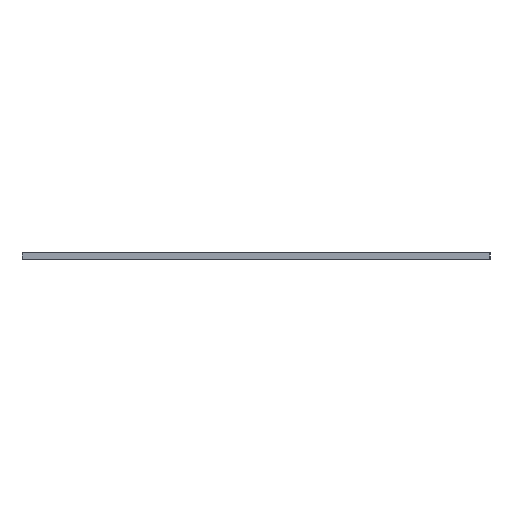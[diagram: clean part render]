
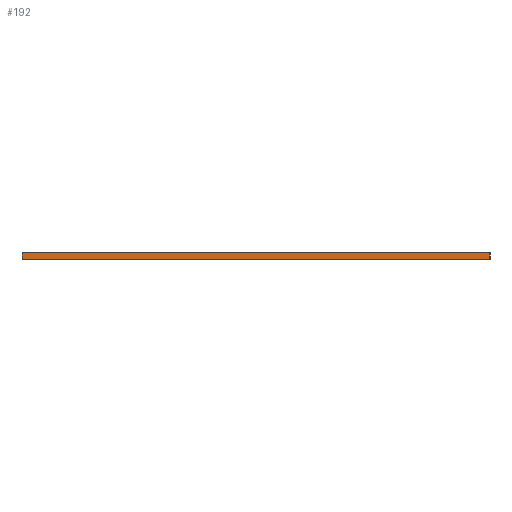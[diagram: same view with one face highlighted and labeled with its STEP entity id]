
A CAD part, left-side view. The second image highlights one B-rep face of the part: STEP entity #192.
In plain terms, the highlighted free-form (B-spline) face has degree [1, 1] with [2, 2] control points.
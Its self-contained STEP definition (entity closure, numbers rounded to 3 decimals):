
#31 = B_SPLINE_SURFACE_WITH_KNOTS('',1,1,(
    (#32,#33)
    ,(#34,#35
    )),.UNSPECIFIED.,.F.,.F.,.F.,(2,2),(2,2),(0.,125.),(-1.51,0.),
  .PIECEWISE_BEZIER_KNOTS.);
#32 = CARTESIAN_POINT('',(175.,-160.,1.6));
#33 = CARTESIAN_POINT('',(175.,-160.,0.));
#34 = CARTESIAN_POINT('',(50.,-160.,1.6));
#35 = CARTESIAN_POINT('',(50.,-160.,0.));
#54 = VERTEX_POINT('',#55);
#55 = CARTESIAN_POINT('',(50.,-160.,1.6));
#67 = B_SPLINE_SURFACE_WITH_KNOTS('',1,1,(
    (#68,#69)
    ,(#70,#71
    )),.UNSPECIFIED.,.F.,.F.,.F.,(2,2),(2,2),(50.,175.),(-160.,-50.),
  .PIECEWISE_BEZIER_KNOTS.);
#68 = CARTESIAN_POINT('',(50.,-160.,1.6));
#69 = CARTESIAN_POINT('',(50.,-50.,1.6));
#70 = CARTESIAN_POINT('',(175.,-160.,1.6));
#71 = CARTESIAN_POINT('',(175.,-50.,1.6));
#78 = EDGE_CURVE('',#79,#54,#81,.T.);
#79 = VERTEX_POINT('',#80);
#80 = CARTESIAN_POINT('',(50.,-160.,0.));
#81 = SURFACE_CURVE('',#82,(#85,#91),.PCURVE_S1.);
#82 = B_SPLINE_CURVE_WITH_KNOTS('',1,(#83,#84),.UNSPECIFIED.,.F.,.F.,(2,
    2),(0.,1.51),.PIECEWISE_BEZIER_KNOTS.);
#83 = CARTESIAN_POINT('',(50.,-160.,0.));
#84 = CARTESIAN_POINT('',(50.,-160.,1.6));
#85 = PCURVE('',#31,#86);
#86 = DEFINITIONAL_REPRESENTATION('',(#87),#90);
#87 = B_SPLINE_CURVE_WITH_KNOTS('',1,(#88,#89),.UNSPECIFIED.,.F.,.F.,(2,
    2),(0.,1.51),.PIECEWISE_BEZIER_KNOTS.);
#88 = CARTESIAN_POINT('',(125.,0.));
#89 = CARTESIAN_POINT('',(125.,-1.51));
#90 = ( GEOMETRIC_REPRESENTATION_CONTEXT(2) 
PARAMETRIC_REPRESENTATION_CONTEXT() REPRESENTATION_CONTEXT('2D SPACE',''
  ) );
#91 = PCURVE('',#92,#97);
#92 = B_SPLINE_SURFACE_WITH_KNOTS('',1,1,(
    (#93,#94)
    ,(#95,#96
    )),.UNSPECIFIED.,.F.,.F.,.F.,(2,2),(2,2),(0.,110.),(-1.51,0.),
  .PIECEWISE_BEZIER_KNOTS.);
#93 = CARTESIAN_POINT('',(50.,-160.,1.6));
#94 = CARTESIAN_POINT('',(50.,-160.,0.));
#95 = CARTESIAN_POINT('',(50.,-50.,1.6));
#96 = CARTESIAN_POINT('',(50.,-50.,0.));
#97 = DEFINITIONAL_REPRESENTATION('',(#98),#101);
#98 = B_SPLINE_CURVE_WITH_KNOTS('',1,(#99,#100),.UNSPECIFIED.,.F.,.F.,(2
    ,2),(0.,1.51),.PIECEWISE_BEZIER_KNOTS.);
#99 = CARTESIAN_POINT('',(0.,0.));
#100 = CARTESIAN_POINT('',(0.,-1.51));
#101 = ( GEOMETRIC_REPRESENTATION_CONTEXT(2) 
PARAMETRIC_REPRESENTATION_CONTEXT() REPRESENTATION_CONTEXT('2D SPACE',''
  ) );
#115 = B_SPLINE_SURFACE_WITH_KNOTS('',1,1,(
    (#116,#117)
    ,(#118,#119
    )),.UNSPECIFIED.,.F.,.F.,.F.,(2,2),(2,2),(50.,175.),(-160.,-50.),
  .PIECEWISE_BEZIER_KNOTS.);
#116 = CARTESIAN_POINT('',(50.,-160.,0.));
#117 = CARTESIAN_POINT('',(50.,-50.,0.));
#118 = CARTESIAN_POINT('',(175.,-160.,0.));
#119 = CARTESIAN_POINT('',(175.,-50.,0.));
#145 = B_SPLINE_SURFACE_WITH_KNOTS('',1,1,(
    (#146,#147)
    ,(#148,#149
    )),.UNSPECIFIED.,.F.,.F.,.F.,(2,2),(2,2),(0.,125.),(-1.51,0.),
  .PIECEWISE_BEZIER_KNOTS.);
#146 = CARTESIAN_POINT('',(50.,-50.,1.6));
#147 = CARTESIAN_POINT('',(50.,-50.,0.));
#148 = CARTESIAN_POINT('',(175.,-50.,1.6));
#149 = CARTESIAN_POINT('',(175.,-50.,0.));
#192 = ADVANCED_FACE('',(#193),#92,.T.);
#193 = FACE_BOUND('',#194,.T.);
#194 = EDGE_LOOP('',(#195,#196,#216,#236));
#195 = ORIENTED_EDGE('',*,*,#78,.T.);
#196 = ORIENTED_EDGE('',*,*,#197,.T.);
#197 = EDGE_CURVE('',#54,#198,#200,.T.);
#198 = VERTEX_POINT('',#199);
#199 = CARTESIAN_POINT('',(50.,-50.,1.6));
#200 = SURFACE_CURVE('',#201,(#204,#210),.PCURVE_S1.);
#201 = B_SPLINE_CURVE_WITH_KNOTS('',1,(#202,#203),.UNSPECIFIED.,.F.,.F.,
  (2,2),(0.,110.),.PIECEWISE_BEZIER_KNOTS.);
#202 = CARTESIAN_POINT('',(50.,-160.,1.6));
#203 = CARTESIAN_POINT('',(50.,-50.,1.6));
#204 = PCURVE('',#92,#205);
#205 = DEFINITIONAL_REPRESENTATION('',(#206),#209);
#206 = B_SPLINE_CURVE_WITH_KNOTS('',1,(#207,#208),.UNSPECIFIED.,.F.,.F.,
  (2,2),(0.,110.),.PIECEWISE_BEZIER_KNOTS.);
#207 = CARTESIAN_POINT('',(0.,-1.51));
#208 = CARTESIAN_POINT('',(110.,-1.51));
#209 = ( GEOMETRIC_REPRESENTATION_CONTEXT(2) 
PARAMETRIC_REPRESENTATION_CONTEXT() REPRESENTATION_CONTEXT('2D SPACE',''
  ) );
#210 = PCURVE('',#67,#211);
#211 = DEFINITIONAL_REPRESENTATION('',(#212),#215);
#212 = B_SPLINE_CURVE_WITH_KNOTS('',1,(#213,#214),.UNSPECIFIED.,.F.,.F.,
  (2,2),(0.,110.),.PIECEWISE_BEZIER_KNOTS.);
#213 = CARTESIAN_POINT('',(50.,-160.));
#214 = CARTESIAN_POINT('',(50.,-50.));
#215 = ( GEOMETRIC_REPRESENTATION_CONTEXT(2) 
PARAMETRIC_REPRESENTATION_CONTEXT() REPRESENTATION_CONTEXT('2D SPACE',''
  ) );
#216 = ORIENTED_EDGE('',*,*,#217,.F.);
#217 = EDGE_CURVE('',#218,#198,#220,.T.);
#218 = VERTEX_POINT('',#219);
#219 = CARTESIAN_POINT('',(50.,-50.,0.));
#220 = SURFACE_CURVE('',#221,(#224,#230),.PCURVE_S1.);
#221 = B_SPLINE_CURVE_WITH_KNOTS('',1,(#222,#223),.UNSPECIFIED.,.F.,.F.,
  (2,2),(0.,1.51),.PIECEWISE_BEZIER_KNOTS.);
#222 = CARTESIAN_POINT('',(50.,-50.,0.));
#223 = CARTESIAN_POINT('',(50.,-50.,1.6));
#224 = PCURVE('',#92,#225);
#225 = DEFINITIONAL_REPRESENTATION('',(#226),#229);
#226 = B_SPLINE_CURVE_WITH_KNOTS('',1,(#227,#228),.UNSPECIFIED.,.F.,.F.,
  (2,2),(0.,1.51),.PIECEWISE_BEZIER_KNOTS.);
#227 = CARTESIAN_POINT('',(110.,0.));
#228 = CARTESIAN_POINT('',(110.,-1.51));
#229 = ( GEOMETRIC_REPRESENTATION_CONTEXT(2) 
PARAMETRIC_REPRESENTATION_CONTEXT() REPRESENTATION_CONTEXT('2D SPACE',''
  ) );
#230 = PCURVE('',#145,#231);
#231 = DEFINITIONAL_REPRESENTATION('',(#232),#235);
#232 = B_SPLINE_CURVE_WITH_KNOTS('',1,(#233,#234),.UNSPECIFIED.,.F.,.F.,
  (2,2),(0.,1.51),.PIECEWISE_BEZIER_KNOTS.);
#233 = CARTESIAN_POINT('',(0.,0.));
#234 = CARTESIAN_POINT('',(0.,-1.51));
#235 = ( GEOMETRIC_REPRESENTATION_CONTEXT(2) 
PARAMETRIC_REPRESENTATION_CONTEXT() REPRESENTATION_CONTEXT('2D SPACE',''
  ) );
#236 = ORIENTED_EDGE('',*,*,#237,.F.);
#237 = EDGE_CURVE('',#79,#218,#238,.T.);
#238 = SURFACE_CURVE('',#239,(#242,#248),.PCURVE_S1.);
#239 = B_SPLINE_CURVE_WITH_KNOTS('',1,(#240,#241),.UNSPECIFIED.,.F.,.F.,
  (2,2),(0.,110.),.PIECEWISE_BEZIER_KNOTS.);
#240 = CARTESIAN_POINT('',(50.,-160.,0.));
#241 = CARTESIAN_POINT('',(50.,-50.,0.));
#242 = PCURVE('',#92,#243);
#243 = DEFINITIONAL_REPRESENTATION('',(#244),#247);
#244 = B_SPLINE_CURVE_WITH_KNOTS('',1,(#245,#246),.UNSPECIFIED.,.F.,.F.,
  (2,2),(0.,110.),.PIECEWISE_BEZIER_KNOTS.);
#245 = CARTESIAN_POINT('',(0.,0.));
#246 = CARTESIAN_POINT('',(110.,0.));
#247 = ( GEOMETRIC_REPRESENTATION_CONTEXT(2) 
PARAMETRIC_REPRESENTATION_CONTEXT() REPRESENTATION_CONTEXT('2D SPACE',''
  ) );
#248 = PCURVE('',#115,#249);
#249 = DEFINITIONAL_REPRESENTATION('',(#250),#253);
#250 = B_SPLINE_CURVE_WITH_KNOTS('',1,(#251,#252),.UNSPECIFIED.,.F.,.F.,
  (2,2),(0.,110.),.PIECEWISE_BEZIER_KNOTS.);
#251 = CARTESIAN_POINT('',(50.,-160.));
#252 = CARTESIAN_POINT('',(50.,-50.));
#253 = ( GEOMETRIC_REPRESENTATION_CONTEXT(2) 
PARAMETRIC_REPRESENTATION_CONTEXT() REPRESENTATION_CONTEXT('2D SPACE',''
  ) );
